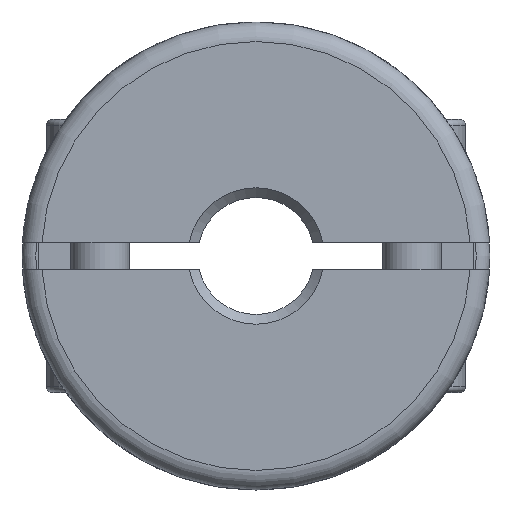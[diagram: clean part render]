
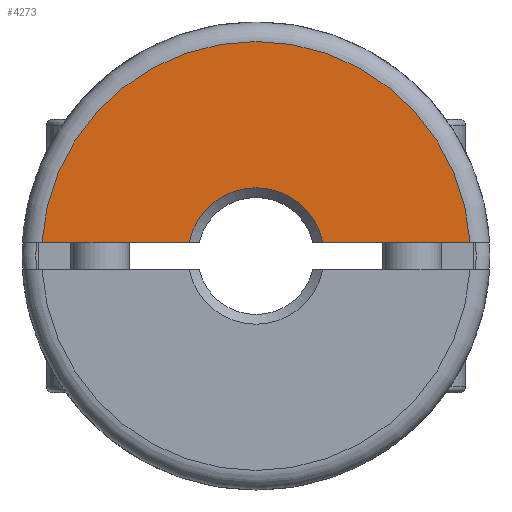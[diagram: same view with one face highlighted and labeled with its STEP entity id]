
A CAD part, left-side view. The second image highlights one B-rep face of the part: STEP entity #4273.
In plain terms, the highlighted planar face has unit normal (-1, 0, 0).
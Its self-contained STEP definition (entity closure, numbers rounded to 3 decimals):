
#34=LINE('',#6161,#194);
#47=LINE('',#6205,#207);
#194=VECTOR('',#4992,1000.);
#207=VECTOR('',#5023,1000.);
#427=PLANE('',#4544);
#790=ORIENTED_EDGE('',*,*,#1479,.T.);
#791=ORIENTED_EDGE('',*,*,#1387,.T.);
#792=ORIENTED_EDGE('',*,*,#1459,.T.);
#793=ORIENTED_EDGE('',*,*,#1395,.F.);
#1387=EDGE_CURVE('',#1790,#1788,#2076,.T.);
#1395=EDGE_CURVE('',#1797,#1795,#2080,.T.);
#1459=EDGE_CURVE('',#1788,#1795,#34,.T.);
#1479=EDGE_CURVE('',#1797,#1790,#47,.T.);
#1788=VERTEX_POINT('',#5766);
#1790=VERTEX_POINT('',#5769);
#1795=VERTEX_POINT('',#5816);
#1797=VERTEX_POINT('',#5823);
#2076=CIRCLE('',#4455,11.);
#2080=CIRCLE('',#4461,3.5);
#2317=EDGE_LOOP('',(#790,#791,#792,#793));
#2601=FACE_BOUND('',#2317,.T.);
#4273=ADVANCED_FACE('',(#2601),#427,.T.);
#4455=AXIS2_PLACEMENT_3D('',#5768,#4862,#4863);
#4461=AXIS2_PLACEMENT_3D('',#5824,#4874,#4875);
#4544=AXIS2_PLACEMENT_3D('',#6266,#5072,#5073);
#4862=DIRECTION('',(-1.,0.,0.));
#4863=DIRECTION('',(0.,0.,-1.));
#4874=DIRECTION('',(-1.,0.,0.));
#4875=DIRECTION('',(0.,0.,-1.));
#4992=DIRECTION('',(0.,-1.,0.));
#5023=DIRECTION('',(0.,-1.,0.));
#5072=DIRECTION('',(-1.,0.,0.));
#5073=DIRECTION('',(0.,0.,-1.));
#5766=CARTESIAN_POINT('',(-18.782,10.978,0.7));
#5768=CARTESIAN_POINT('',(-18.782,0.,0.));
#5769=CARTESIAN_POINT('',(-18.782,-10.978,0.7));
#5816=CARTESIAN_POINT('',(-18.782,3.429,0.7));
#5823=CARTESIAN_POINT('',(-18.782,-3.429,0.7));
#5824=CARTESIAN_POINT('',(-18.782,0.,0.));
#6161=CARTESIAN_POINT('',(-18.782,-12.,0.7));
#6205=CARTESIAN_POINT('',(-18.782,-12.,0.7));
#6266=CARTESIAN_POINT('',(-18.782,-12.,0.));
